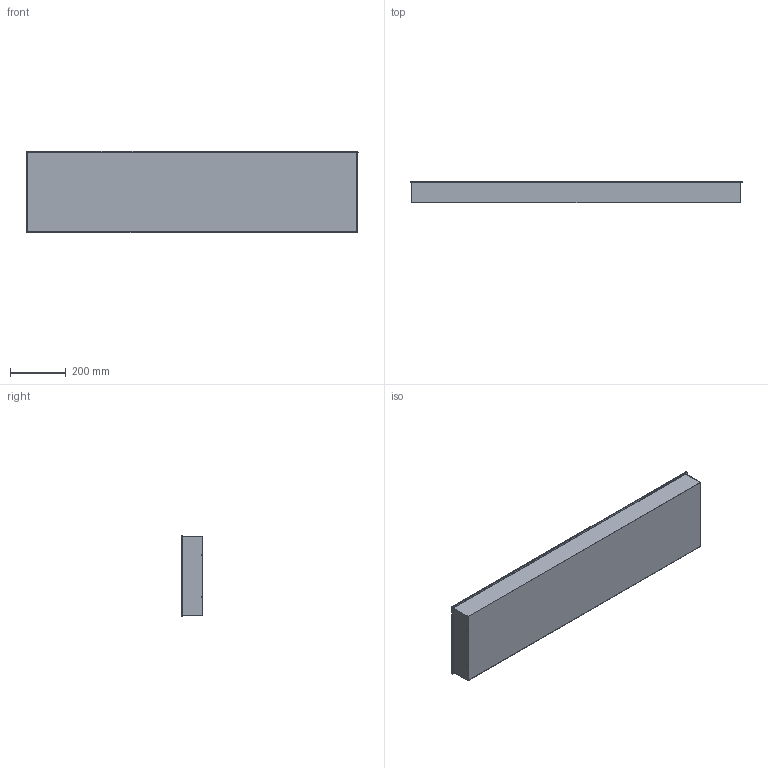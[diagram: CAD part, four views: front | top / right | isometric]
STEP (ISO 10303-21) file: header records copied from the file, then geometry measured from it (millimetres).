
FILE_DESCRIPTION(/* description */ (''),/* implementation_level */ '2;1');
FILE_NAME(/* name */ 'C:/Users/elena/Downloads/Coner QNQ 30x120.step',/* time_stamp */ '2020-06-17T13:08:24+02:00',/* author */ (''),/* organization */ (''),/* preprocessor_version */ 'ST-DEVELOPER v18.1',/* originating_system */ 'Autodesk Translation Framework v9.3.0.1241',/* authorisation */ '');
FILE_SCHEMA (('AUTOMOTIVE_DESIGN { 1 0 10303 214 3 1 1 }'));
Length unit declared in the file: millimetre
Products named in the file (1): (Unsaved)
Bounding box: 1195 x 78 x 295 mm (x, y, z)
Volume: 1626087.3 mm3; surface area: 1854007.1 mm2
Topology: 2 solids, 2 shells, 51 faces, 138 edges, 93 vertices
Faces by surface type: plane 31, cylinder 16, bspline 4
Entity records: 2255 total; most frequent: CARTESIAN_POINT 909, ORIENTED_EDGE 276, DIRECTION 252, EDGE_CURVE 138, LINE 104, VECTOR 104, VERTEX_POINT 93, AXIS2_PLACEMENT_3D 74
